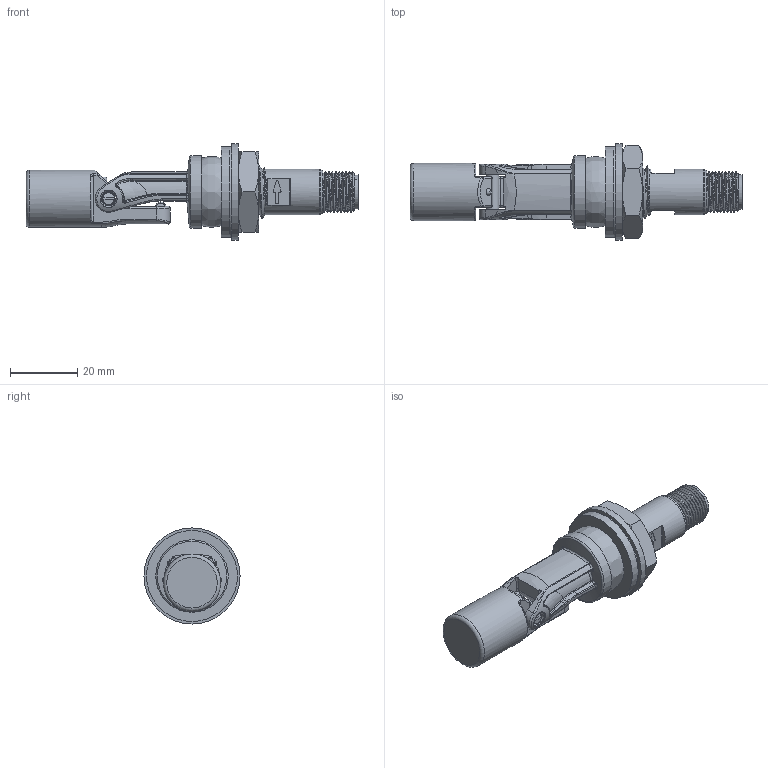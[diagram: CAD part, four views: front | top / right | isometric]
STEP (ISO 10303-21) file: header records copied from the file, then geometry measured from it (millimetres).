
FILE_DESCRIPTION(/* description */ (''),/* implementation_level */ '2;1');
FILE_NAME(/* name */ '204KS14CT00_D_1-Klappschwimmer.stp',/* time_stamp */ '2020-03-03T08:10:30+01:00',/* author */ (''),/* organization */ (''),/* preprocessor_version */ 'ST-DEVELOPER v16',/* originating_system */ 'SIEMENS PLM Software NX 11.0',/* authorisation */ '');
FILE_SCHEMA (('AP203_CONFIGURATION_CONTROLLED_3D_DESIGN_OF_MECHANICAL_PARTS_AND_ASSEMBLIES_MIM_LF { 1 0 10303 403 2 1 2}'));
Length unit declared in the file: millimetre
Products named in the file (1): hi2n40181B00lt6l
Bounding box: 98.5 x 28.5 x 28.5 mm (x, y, z)
Volume: 20325.7 mm3; surface area: 10820.2 mm2
Topology: 2 solids, 5 shells, 514 faces, 1276 edges, 790 vertices
Faces by surface type: plane 176, bspline 148, cylinder 129, cone 24, extrusion 16, torus 13, sphere 8
Full cylindrical faces by diameter (mm): 3.8 x1, 9.45 x3, 11.5 x1, 13.5 x1, 13.55 x9, 16.5 x1, 17 x1, 21.5 x1, 27 x1, 28.5 x1
Entity records: 24886 total; most frequent: CARTESIAN_POINT 14193, ORIENTED_EDGE 2398, DIRECTION 1846, EDGE_CURVE 1199, VERTEX_POINT 755, AXIS2_PLACEMENT_3D 697, EDGE_LOOP 568, ADVANCED_FACE 506
